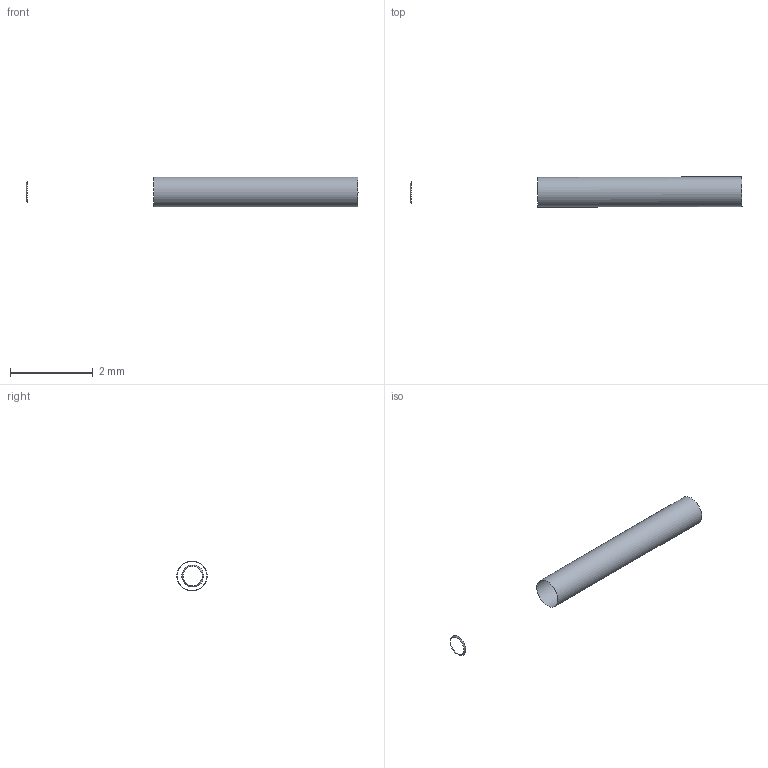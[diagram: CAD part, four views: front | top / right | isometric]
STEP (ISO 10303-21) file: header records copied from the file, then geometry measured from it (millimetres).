
FILE_DESCRIPTION(('BRL-CAD minimized periodic repair regression'),'2;1');
FILE_NAME('ap214_multiperiod_face_repair.stp','2026-07-24T00:00:00',('BRL-CAD'),('BRL-CAD'),'','','');
FILE_SCHEMA(('AUTOMOTIVE_DESIGN { 1 0 10303 214 3 1 1 1 }'));
Length unit declared in the file: millimetre
Products named in the file (1): multiperiod_face_repair
Bounding box: 8.03 x 0.73 x 0.72 mm (x, y, z)
Surface area: 11.2 mm2 (no closed solid volume)
Topology: 0 solids, 2 shells, 2 faces, 6 edges, 4 vertices
Faces by surface type: cone 1, cylinder 1
Full cylindrical faces by diameter (mm): 0.72 x1
Entity records: 80 total; most frequent: DIRECTION 14, CARTESIAN_POINT 12, ORIENTED_EDGE 8, EDGE_CURVE 6, AXIS2_PLACEMENT_3D 6, CIRCLE 4, VERTEX_POINT 4, FACE_OUTER_BOUND 2
